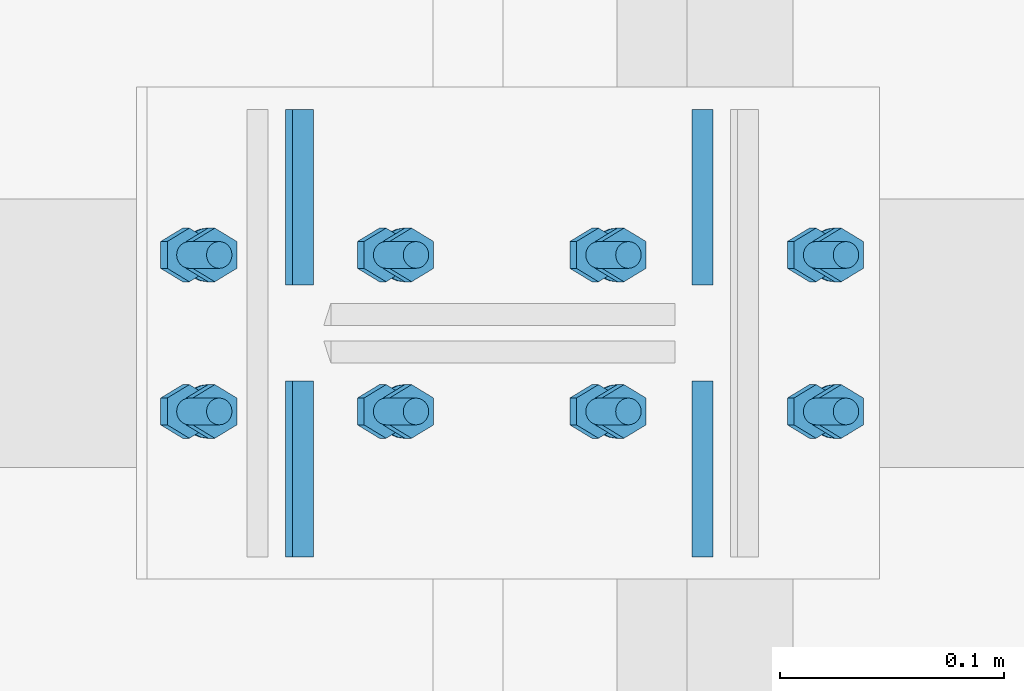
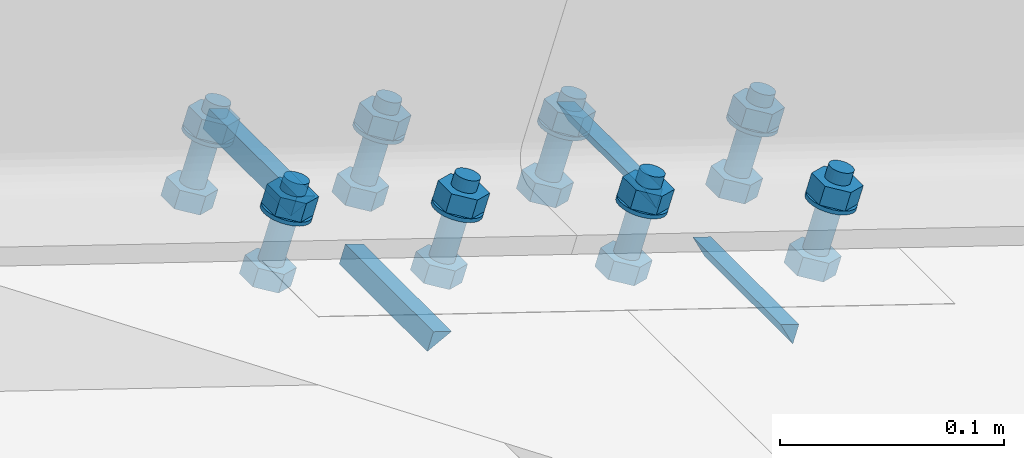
# One storey, part 44 of 53: 32 mechanical fasteners, 8 fasteners.
"""IFC4 building model written with IfcOpenShell, lengths in metres."""

from ifc_helpers import new_model, si_unit, frame, origin_with_axes, place, context, project, spatial, polyline, outline, extrude, type_object, element, save


model = new_model("IFC4")

# Units and contexts
model_context = context("Model", 3, precision=1e-05, world=origin_with_axes())
ifc_project = project(units=[si_unit("LENGTHUNIT", "METRE"), si_unit("AREAUNIT", "SQUARE_METRE"), si_unit("VOLUMEUNIT", "CUBIC_METRE"), si_unit("MASSUNIT", "GRAM", prefix="KILO"), si_unit("TIMEUNIT", "SECOND"), si_unit("PLANEANGLEUNIT", "RADIAN"), si_unit("SOLIDANGLEUNIT", "STERADIAN"), si_unit("THERMODYNAMICTEMPERATUREUNIT", "DEGREE_CELSIUS")], contexts=[model_context])

# Site, building, storey
placement_1 = place(None, origin_with_axes())
site = spatial("IfcSite", under=ifc_project, at=placement_1, Name="Italia", CompositionType="ELEMENT")
building = spatial("IfcBuilding", under=site, at=placement_1, Name="Capannone", CompositionType="ELEMENT")
storey_placement = place(None, frame((0.0, 0.0, 5.550000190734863), z_axis=(0.0, 0.0, 1.0), x_axis=(1.0, 0.0, 0.0)))
storey = spatial("IfcBuildingStorey", under=building, at=storey_placement, Name="Storey 1", CompositionType="ELEMENT", Elevation=5.550000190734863)

# Fasteners
fastener_type_1 = type_object("IfcFastenerType", Name="Collegamenti 0102_0002 0104_0004 0106_0006 0108_0008 0110_0010 0112_0012", PredefinedType="WELD")
placement_2 = place(placement_1, origin_with_axes())
fastener_1_placement = place(placement_2, origin_with_axes())
element("IfcFastener", 1, at=fastener_1_placement, inside=storey, type_object=fastener_type_1, Name="Collegamenti 0102_0002 0104_0004 0106_0006 0108_0008 0110_0010 0112_0012", context=model_context, shape_type="SweptSolid", body=[
    extrude(outline(polyline([(0.0, 0.0), (-0.0125504, -0.00658464), (-0.00937462, 0.00308037), (0.0, 0.0)])), frame((13.9153, 9.10005, 5.56208), z_axis=(0.0, -1.0, 0.0), x_axis=(1.0, 0.0, 0.0)), (0.0, 0.0, 1.0), 0.0785999),
])
fastener_type_2 = type_object("IfcFastenerType", Name="Collegamenti 0102_0002 0104_0004 0106_0006 0108_0008 0110_0010 0112_0012", PredefinedType="WELD")
fastener_2_placement = place(placement_2, origin_with_axes())
element("IfcFastener", 2, at=fastener_2_placement, inside=storey, type_object=fastener_type_2, Name="Collegamenti 0102_0002 0104_0004 0106_0006 0108_0008 0110_0010 0112_0012", context=model_context, shape_type="SweptSolid", body=[
    extrude(outline(polyline([(0.0, 0.0), (-0.00619984, -0.0127454), (-0.00937557, -0.00308037), (0.0, 0.0)])), frame((14.0847, 9.02145, 5.50644), z_axis=(0.0, 1.0, 0.0), x_axis=(-1.0, 0.0, 0.0)), (0.0, 0.0, 1.0), 0.0785999),
])
fastener_type_3 = type_object("IfcFastenerType", Name="Collegamenti 0102_0002 0104_0004 0106_0006 0108_0008 0110_0010 0112_0012", PredefinedType="WELD")
fastener_3_placement = place(placement_2, origin_with_axes())
element("IfcFastener", 3, at=fastener_3_placement, inside=storey, type_object=fastener_type_3, Name="Collegamenti 0102_0002 0104_0004 0106_0006 0108_0008 0110_0010 0112_0012", context=model_context, shape_type="SweptSolid", body=[
    extrude(outline(polyline([(0.0, 0.0), (-0.00619984, -0.0127454), (-0.00937557, -0.00308037), (0.0, 0.0)])), frame((14.0847, 8.89995, 5.50644), z_axis=(0.0, 1.0, 0.0), x_axis=(-1.0, 0.0, 0.0)), (0.0, 0.0, 1.0), 0.0785999),
])
fastener_type_4 = type_object("IfcFastenerType", Name="Collegamenti 0102_0002 0104_0004 0106_0006 0108_0008 0110_0010 0112_0012", PredefinedType="WELD")
fastener_4_placement = place(placement_2, origin_with_axes())
element("IfcFastener", 4, at=fastener_4_placement, inside=storey, type_object=fastener_type_4, Name="Collegamenti 0102_0002 0104_0004 0106_0006 0108_0008 0110_0010 0112_0012", context=model_context, shape_type="SweptSolid", body=[
    extrude(outline(polyline([(0.0, 0.0), (-0.0125504, -0.00658464), (-0.00937462, 0.00308037), (0.0, 0.0)])), frame((13.9153, 8.97855, 5.56208), z_axis=(0.0, -1.0, 0.0), x_axis=(1.0, 0.0, 0.0)), (0.0, 0.0, 1.0), 0.0785999),
])
fastener_type_5 = type_object("IfcFastenerType", Name="Collegamenti 0102_0002 0104_0004 0106_0006 0108_0008 0110_0010 0112_0012", PredefinedType="WELD")
fastener_5_placement = place(placement_2, origin_with_axes())
element("IfcFastener", 5, at=fastener_5_placement, inside=storey, type_object=fastener_type_5, Name="Collegamenti 0102_0002 0104_0004 0106_0006 0108_0008 0110_0010 0112_0012", context=model_context, shape_type="SweptSolid", body=[
    extrude(outline(polyline([(0.0, 0.0), (-0.0125504, -0.00658464), (-0.00937462, 0.00308037), (0.0, 0.0)])), frame((13.9153, 9.10005, 5.56208), z_axis=(0.0, -1.0, 0.0), x_axis=(1.0, 0.0, 0.0)), (0.0, 0.0, 1.0), 0.0785999),
])
fastener_type_6 = type_object("IfcFastenerType", Name="Collegamenti 0102_0002 0104_0004 0106_0006 0108_0008 0110_0010 0112_0012", PredefinedType="WELD")
fastener_6_placement = place(placement_2, origin_with_axes())
element("IfcFastener", 6, at=fastener_6_placement, inside=storey, type_object=fastener_type_6, Name="Collegamenti 0102_0002 0104_0004 0106_0006 0108_0008 0110_0010 0112_0012", context=model_context, shape_type="SweptSolid", body=[
    extrude(outline(polyline([(0.0, 0.0), (-0.00619984, -0.0127454), (-0.00937557, -0.00308037), (0.0, 0.0)])), frame((14.0847, 9.02145, 5.50644), z_axis=(0.0, 1.0, 0.0), x_axis=(-1.0, 0.0, 0.0)), (0.0, 0.0, 1.0), 0.0785999),
])
fastener_type_7 = type_object("IfcFastenerType", Name="Collegamenti 0102_0002 0104_0004 0106_0006 0108_0008 0110_0010 0112_0012", PredefinedType="WELD")
fastener_7_placement = place(placement_2, origin_with_axes())
element("IfcFastener", 7, at=fastener_7_placement, inside=storey, type_object=fastener_type_7, Name="Collegamenti 0102_0002 0104_0004 0106_0006 0108_0008 0110_0010 0112_0012", context=model_context, shape_type="SweptSolid", body=[
    extrude(outline(polyline([(0.0, 0.0), (-0.00619984, -0.0127454), (-0.00937557, -0.00308037), (0.0, 0.0)])), frame((14.0847, 8.89995, 5.50644), z_axis=(0.0, 1.0, 0.0), x_axis=(-1.0, 0.0, 0.0)), (0.0, 0.0, 1.0), 0.0785999),
])
fastener_type_8 = type_object("IfcFastenerType", Name="Collegamenti 0102_0002 0104_0004 0106_0006 0108_0008 0110_0010 0112_0012", PredefinedType="WELD")
fastener_8_placement = place(placement_2, origin_with_axes())
element("IfcFastener", 8, at=fastener_8_placement, inside=storey, type_object=fastener_type_8, Name="Collegamenti 0102_0002 0104_0004 0106_0006 0108_0008 0110_0010 0112_0012", context=model_context, shape_type="SweptSolid", body=[
    extrude(outline(polyline([(0.0, 0.0), (-0.0125504, -0.00658464), (-0.00937462, 0.00308037), (0.0, 0.0)])), frame((13.9153, 8.97855, 5.56208), z_axis=(0.0, -1.0, 0.0), x_axis=(1.0, 0.0, 0.0)), (0.0, 0.0, 1.0), 0.0785999),
])

# Mechanical fasteners
mechanical_fastener_type_1 = type_object("IfcMechanicalFastenerType", Name="Collegamenti 0102_0002 0104_0004 0106_0006 0108_0008 0110_0010 0112_0012", PredefinedType="BOLT")
mechanical_fastener_1_placement = place(placement_2, origin_with_axes())
element("IfcMechanicalFastener", 9, at=mechanical_fastener_1_placement, inside=storey, type_object=mechanical_fastener_type_1, Name="Collegamenti 0102_0002 0104_0004 0106_0006 0108_0008 0110_0010 0112_0012", NominalDiameter=0.0120001, context=model_context, shape_type="SweptSolid", body=[
    extrude(outline(polyline([(0.0, 0.0), (-0.0120001, 0.0), (-0.0179996, 0.0103931), (-0.0120001, 0.0207853), (0.0, 0.0207853), (0.00600052, 0.0103931), (0.0, 0.0)])), frame((13.8697, 9.029, 5.57702), z_axis=(-0.312231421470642, 0.0, -0.950006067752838), x_axis=(0.0, -1.0, 0.0)), (0.0, 0.0, 1.0), 0.00959993),
])
mechanical_fastener_type_2 = type_object("IfcMechanicalFastenerType", Name="Collegamenti 0102_0002 0104_0004 0106_0006 0108_0008 0110_0010 0112_0012", PredefinedType="BOLT")
mechanical_fastener_2_placement = place(placement_2, origin_with_axes())
element("IfcMechanicalFastener", 10, at=mechanical_fastener_2_placement, inside=storey, type_object=mechanical_fastener_type_2, Name="Collegamenti 0102_0002 0104_0004 0106_0006 0108_0008 0110_0010 0112_0012", NominalDiameter=0.012, context=model_context, shape_type="SweptSolid", body=[
    extrude(outline(polyline([(0.0, 0.0), (-0.000204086, -0.00155354), (-0.000802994, -0.00300121), (-0.00175667, -0.0042429), (-0.00299931, -0.00519562), (-0.00444698, -0.00579548), (-0.00599957, -0.00599957), (-0.00755215, -0.00579548), (-0.00899982, -0.00519562), (-0.0102425, -0.0042429), (-0.0111961, -0.00300121), (-0.011795, -0.00155354), (-0.0119991, 0.0), (-0.011795, 0.00155258), (-0.0111961, 0.00300026), (-0.0102425, 0.00424194), (-0.00899982, 0.00519562), (-0.00755215, 0.00579548), (-0.00599957, 0.00599957), (-0.00444698, 0.00579548), (-0.00299931, 0.00519562), (-0.00175667, 0.00424194), (-0.000802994, 0.00300026), (-0.000204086, 0.00155258), (0.0, 0.0)])), frame((13.8732, 9.029, 5.62092), z_axis=(-0.312153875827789, 0.0, -0.950031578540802), x_axis=(0.0, -1.0, 0.0)), (0.0, 0.0, 1.0), 0.0427995),
])
mechanical_fastener_type_3 = type_object("IfcMechanicalFastenerType", Name="Collegamenti 0102_0002 0104_0004 0106_0006 0108_0008 0110_0010 0112_0012", PredefinedType="BOLT")
mechanical_fastener_3_placement = place(placement_2, origin_with_axes())
element("IfcMechanicalFastener", 11, at=mechanical_fastener_3_placement, inside=storey, type_object=mechanical_fastener_type_3, Name="Collegamenti 0102_0002 0104_0004 0106_0006 0108_0008 0110_0010 0112_0012", NominalDiameter=0.0119993, context=model_context, shape_type="SweptSolid", body=[
    extrude(outline(polyline([(0.0, 0.0), (-0.0120001, 0.0), (-0.0179996, 0.0103922), (-0.0120001, 0.0207844), (0.0, 0.0207844), (0.00600052, 0.0103922), (0.0, 0.0)])), frame((13.8811, 9.029, 5.6116), z_axis=(-0.312141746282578, 0.0, -0.950035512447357), x_axis=(0.0, -1.0, 0.0)), (0.0, 0.0, 1.0), 0.00959963),
])
mechanical_fastener_type_4 = type_object("IfcMechanicalFastenerType", Name="Collegamenti 0102_0002 0104_0004 0106_0006 0108_0008 0110_0010 0112_0012", PredefinedType="BOLT")
mechanical_fastener_4_placement = place(placement_2, origin_with_axes())
element("IfcMechanicalFastener", 12, at=mechanical_fastener_4_placement, inside=storey, type_object=mechanical_fastener_type_4, Name="Collegamenti 0102_0002 0104_0004 0106_0006 0108_0008 0110_0010 0112_0012", NominalDiameter=0.024, context=model_context, shape_type="SweptSolid", body=[
    extrude(outline(polyline([(0.0, 0.0), (-0.000409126, -0.00310612), (-0.00160789, -0.00600052), (-0.00351524, -0.00848484), (-0.00600052, -0.0103931), (-0.00889397, -0.011591), (-0.0120001, -0.0120001), (-0.0151062, -0.011591), (-0.0179996, -0.0103931), (-0.0204849, -0.00848484), (-0.0223923, -0.00600052), (-0.023591, -0.00310612), (-0.0240002, 0.0), (-0.023591, 0.00310516), (-0.0223923, 0.00599957), (-0.0204849, 0.00848484), (-0.0179996, 0.0103922), (-0.0151062, 0.01159), (-0.0120001, 0.0119991), (-0.00889397, 0.01159), (-0.00600052, 0.0103922), (-0.00351524, 0.00848484), (-0.00160789, 0.00599957), (-0.000409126, 0.00310516), (0.0, 0.0)])), frame((13.8682, 9.023, 5.60572), z_axis=(-0.312362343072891, 0.0, -0.94996303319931), x_axis=(0.0, -1.0, 0.0)), (0.0, 0.0, 1.0), 0.00199978),
])
mechanical_fastener_type_5 = type_object("IfcMechanicalFastenerType", Name="Collegamenti 0102_0002 0104_0004 0106_0006 0108_0008 0110_0010 0112_0012", PredefinedType="BOLT")
mechanical_fastener_5_placement = place(placement_2, origin_with_axes())
element("IfcMechanicalFastener", 13, at=mechanical_fastener_5_placement, inside=storey, type_object=mechanical_fastener_type_5, Name="Collegamenti 0102_0002 0104_0004 0106_0006 0108_0008 0110_0010 0112_0012", NominalDiameter=0.0120001, context=model_context, shape_type="SweptSolid", body=[
    extrude(outline(polyline([(0.0, 0.0), (-0.0120001, 0.0), (-0.0180006, 0.0103931), (-0.0120001, 0.0207853), (0.0, 0.0207853), (0.00599957, 0.0103931), (0.0, 0.0)])), frame((13.8697, 8.959, 5.57702), z_axis=(-0.312231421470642, 0.0, -0.950006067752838), x_axis=(0.0, -1.0, 0.0)), (0.0, 0.0, 1.0), 0.00959993),
])
mechanical_fastener_type_6 = type_object("IfcMechanicalFastenerType", Name="Collegamenti 0102_0002 0104_0004 0106_0006 0108_0008 0110_0010 0112_0012", PredefinedType="BOLT")
mechanical_fastener_6_placement = place(placement_2, origin_with_axes())
element("IfcMechanicalFastener", 14, at=mechanical_fastener_6_placement, inside=storey, type_object=mechanical_fastener_type_6, Name="Collegamenti 0102_0002 0104_0004 0106_0006 0108_0008 0110_0010 0112_0012", NominalDiameter=0.012, context=model_context, shape_type="SweptSolid", body=[
    extrude(outline(polyline([(0.0, 0.0), (-0.000204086, -0.00155354), (-0.000802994, -0.00300121), (-0.00175667, -0.0042429), (-0.00299931, -0.00519562), (-0.00444698, -0.00579548), (-0.00599957, -0.00599957), (-0.00755215, -0.00579548), (-0.00899982, -0.00519562), (-0.0102425, -0.0042429), (-0.0111961, -0.00300121), (-0.011795, -0.00155354), (-0.0119991, 0.0), (-0.011795, 0.00155258), (-0.0111961, 0.00300026), (-0.0102425, 0.00424194), (-0.00899982, 0.00519562), (-0.00755215, 0.00579548), (-0.00599957, 0.00599957), (-0.00444698, 0.00579548), (-0.00299931, 0.00519562), (-0.00175667, 0.00424194), (-0.000802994, 0.00300026), (-0.000204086, 0.00155258), (0.0, 0.0)])), frame((13.8732, 8.959, 5.62092), z_axis=(-0.312153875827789, 0.0, -0.950031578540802), x_axis=(0.0, -1.0, 0.0)), (0.0, 0.0, 1.0), 0.0427995),
])
mechanical_fastener_type_7 = type_object("IfcMechanicalFastenerType", Name="Collegamenti 0102_0002 0104_0004 0106_0006 0108_0008 0110_0010 0112_0012", PredefinedType="BOLT")
mechanical_fastener_7_placement = place(placement_2, origin_with_axes())
element("IfcMechanicalFastener", 15, at=mechanical_fastener_7_placement, inside=storey, type_object=mechanical_fastener_type_7, Name="Collegamenti 0102_0002 0104_0004 0106_0006 0108_0008 0110_0010 0112_0012", NominalDiameter=0.0119993, context=model_context, shape_type="SweptSolid", body=[
    extrude(outline(polyline([(0.0, 0.0), (-0.0120001, 0.0), (-0.0180006, 0.0103922), (-0.0120001, 0.0207844), (0.0, 0.0207844), (0.00599957, 0.0103922), (0.0, 0.0)])), frame((13.8811, 8.959, 5.6116), z_axis=(-0.312141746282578, 0.0, -0.950035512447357), x_axis=(0.0, -1.0, 0.0)), (0.0, 0.0, 1.0), 0.00959963),
])
mechanical_fastener_type_8 = type_object("IfcMechanicalFastenerType", Name="Collegamenti 0102_0002 0104_0004 0106_0006 0108_0008 0110_0010 0112_0012", PredefinedType="BOLT")
mechanical_fastener_8_placement = place(placement_2, origin_with_axes())
element("IfcMechanicalFastener", 16, at=mechanical_fastener_8_placement, inside=storey, type_object=mechanical_fastener_type_8, Name="Collegamenti 0102_0002 0104_0004 0106_0006 0108_0008 0110_0010 0112_0012", NominalDiameter=0.024, context=model_context, shape_type="SweptSolid", body=[
    extrude(outline(polyline([(0.0, 0.0), (-0.000409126, -0.00310612), (-0.00160789, -0.00600052), (-0.00351524, -0.00848484), (-0.00600052, -0.0103931), (-0.00889397, -0.011591), (-0.0120001, -0.0120001), (-0.0151062, -0.011591), (-0.0179996, -0.0103931), (-0.0204849, -0.00848484), (-0.0223923, -0.00600052), (-0.023591, -0.00310612), (-0.0240002, 0.0), (-0.023591, 0.00310516), (-0.0223923, 0.00599957), (-0.0204849, 0.00848484), (-0.0179996, 0.0103922), (-0.0151062, 0.01159), (-0.0120001, 0.0119991), (-0.00889397, 0.01159), (-0.00600052, 0.0103922), (-0.00351524, 0.00848484), (-0.00160789, 0.00599957), (-0.000409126, 0.00310516), (0.0, 0.0)])), frame((13.8682, 8.953, 5.60572), z_axis=(-0.312362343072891, 0.0, -0.94996303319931), x_axis=(0.0, -1.0, 0.0)), (0.0, 0.0, 1.0), 0.00199978),
])
mechanical_fastener_type_9 = type_object("IfcMechanicalFastenerType", Name="Collegamenti 0102_0002 0104_0004 0106_0006 0108_0008 0110_0010 0112_0012", PredefinedType="BOLT")
mechanical_fastener_9_placement = place(placement_2, origin_with_axes())
element("IfcMechanicalFastener", 17, at=mechanical_fastener_9_placement, inside=storey, type_object=mechanical_fastener_type_9, Name="Collegamenti 0102_0002 0104_0004 0106_0006 0108_0008 0110_0010 0112_0012", NominalDiameter=0.0119993, context=model_context, shape_type="SweptSolid", body=[
    extrude(outline(polyline([(0.0, 0.0), (-0.0120001, 0.0), (-0.0179996, 0.0103931), (-0.0120001, 0.0207844), (0.0, 0.0207844), (0.00600052, 0.0103931), (0.0, 0.0)])), frame((14.0527, 9.029, 5.5169), z_axis=(-0.312127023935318, 0.0, -0.950040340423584), x_axis=(0.0, -1.0, 0.0)), (0.0, 0.0, 1.0), 0.00960008),
])
mechanical_fastener_type_10 = type_object("IfcMechanicalFastenerType", Name="Collegamenti 0102_0002 0104_0004 0106_0006 0108_0008 0110_0010 0112_0012", PredefinedType="BOLT")
mechanical_fastener_10_placement = place(placement_2, origin_with_axes())
element("IfcMechanicalFastener", 18, at=mechanical_fastener_10_placement, inside=storey, type_object=mechanical_fastener_type_10, Name="Collegamenti 0102_0002 0104_0004 0106_0006 0108_0008 0110_0010 0112_0012", NominalDiameter=0.012, context=model_context, shape_type="SweptSolid", body=[
    extrude(outline(polyline([(0.0, 0.0), (-0.000204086, -0.00155258), (-0.000802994, -0.00300026), (-0.00175667, -0.00424194), (-0.00299931, -0.00519562), (-0.00444698, -0.00579453), (-0.00599957, -0.00599957), (-0.00755215, -0.00579453), (-0.00899982, -0.00519562), (-0.0102425, -0.00424194), (-0.0111961, -0.00300026), (-0.011795, -0.00155258), (-0.0119991, 0.0), (-0.011795, 0.00155354), (-0.0111961, 0.00300026), (-0.0102425, 0.00424194), (-0.00899982, 0.00519657), (-0.00755215, 0.00579548), (-0.00599957, 0.00600052), (-0.00444698, 0.00579548), (-0.00299931, 0.00519657), (-0.00175667, 0.00424194), (-0.000802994, 0.00300026), (-0.000204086, 0.00155354), (0.0, 0.0)])), frame((14.0562, 9.029, 5.5608), z_axis=(-0.312150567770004, 0.0, -0.950032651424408), x_axis=(0.0, -1.0, 0.0)), (0.0, 0.0, 1.0), 0.0427999),
])
mechanical_fastener_type_11 = type_object("IfcMechanicalFastenerType", Name="Collegamenti 0102_0002 0104_0004 0106_0006 0108_0008 0110_0010 0112_0012", PredefinedType="BOLT")
mechanical_fastener_11_placement = place(placement_2, origin_with_axes())
element("IfcMechanicalFastener", 19, at=mechanical_fastener_11_placement, inside=storey, type_object=mechanical_fastener_type_11, Name="Collegamenti 0102_0002 0104_0004 0106_0006 0108_0008 0110_0010 0112_0012", NominalDiameter=0.0119993, context=model_context, shape_type="SweptSolid", body=[
    extrude(outline(polyline([(0.0, 0.0), (-0.0120001, 0.0), (-0.0179996, 0.0103912), (-0.0120001, 0.0207834), (0.0, 0.0207834), (0.00600052, 0.0103912), (0.0, 0.0)])), frame((14.0641, 9.029, 5.55148), z_axis=(-0.312127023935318, 0.0, -0.950040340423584), x_axis=(0.0, -1.0, 0.0)), (0.0, 0.0, 1.0), 0.00960008),
])
mechanical_fastener_type_12 = type_object("IfcMechanicalFastenerType", Name="Collegamenti 0102_0002 0104_0004 0106_0006 0108_0008 0110_0010 0112_0012", PredefinedType="BOLT")
mechanical_fastener_12_placement = place(placement_2, origin_with_axes())
element("IfcMechanicalFastener", 20, at=mechanical_fastener_12_placement, inside=storey, type_object=mechanical_fastener_type_12, Name="Collegamenti 0102_0002 0104_0004 0106_0006 0108_0008 0110_0010 0112_0012", NominalDiameter=0.024, context=model_context, shape_type="SweptSolid", body=[
    extrude(outline(polyline([(0.0, 0.0), (-0.000409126, -0.00310516), (-0.00160789, -0.00599957), (-0.00351524, -0.00848579), (-0.00600052, -0.0103912), (-0.00889397, -0.011591), (-0.0120001, -0.0119991), (-0.0151062, -0.011591), (-0.0179996, -0.0103912), (-0.0204849, -0.00848579), (-0.0223923, -0.00599957), (-0.023591, -0.00310516), (-0.0240002, 0.0), (-0.023591, 0.00310612), (-0.0223923, 0.00600052), (-0.0204849, 0.00848675), (-0.0179996, 0.0103922), (-0.0151062, 0.011591), (-0.0120001, 0.0120001), (-0.00889397, 0.011591), (-0.00600052, 0.0103922), (-0.00351524, 0.00848675), (-0.00160789, 0.00600052), (-0.000409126, 0.00310612), (0.0, 0.0)])), frame((14.0512, 9.023, 5.5456), z_axis=(-0.311931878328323, 0.0, -0.950104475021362), x_axis=(0.0, -1.0, 0.0)), (0.0, 0.0, 1.0), 0.00199948),
])
mechanical_fastener_type_13 = type_object("IfcMechanicalFastenerType", Name="Collegamenti 0102_0002 0104_0004 0106_0006 0108_0008 0110_0010 0112_0012", PredefinedType="BOLT")
mechanical_fastener_13_placement = place(placement_2, origin_with_axes())
element("IfcMechanicalFastener", 21, at=mechanical_fastener_13_placement, inside=storey, type_object=mechanical_fastener_type_13, Name="Collegamenti 0102_0002 0104_0004 0106_0006 0108_0008 0110_0010 0112_0012", NominalDiameter=0.0119993, context=model_context, shape_type="SweptSolid", body=[
    extrude(outline(polyline([(0.0, 0.0), (-0.0120001, 0.0), (-0.0180006, 0.0103931), (-0.0120001, 0.0207844), (0.0, 0.0207844), (0.00599957, 0.0103931), (0.0, 0.0)])), frame((14.0527, 8.959, 5.5169), z_axis=(-0.312127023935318, 0.0, -0.950040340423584), x_axis=(0.0, -1.0, 0.0)), (0.0, 0.0, 1.0), 0.00960008),
])
mechanical_fastener_type_14 = type_object("IfcMechanicalFastenerType", Name="Collegamenti 0102_0002 0104_0004 0106_0006 0108_0008 0110_0010 0112_0012", PredefinedType="BOLT")
mechanical_fastener_14_placement = place(placement_2, origin_with_axes())
element("IfcMechanicalFastener", 22, at=mechanical_fastener_14_placement, inside=storey, type_object=mechanical_fastener_type_14, Name="Collegamenti 0102_0002 0104_0004 0106_0006 0108_0008 0110_0010 0112_0012", NominalDiameter=0.012, context=model_context, shape_type="SweptSolid", body=[
    extrude(outline(polyline([(0.0, 0.0), (-0.000204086, -0.00155258), (-0.000802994, -0.00300026), (-0.00175667, -0.00424194), (-0.00299931, -0.00519562), (-0.00444698, -0.00579453), (-0.00599957, -0.00599957), (-0.00755215, -0.00579453), (-0.00899982, -0.00519562), (-0.0102425, -0.00424194), (-0.0111961, -0.00300026), (-0.011795, -0.00155258), (-0.0119991, 0.0), (-0.011795, 0.00155354), (-0.0111961, 0.00300026), (-0.0102425, 0.00424194), (-0.00899982, 0.00519657), (-0.00755215, 0.00579548), (-0.00599957, 0.00600052), (-0.00444698, 0.00579548), (-0.00299931, 0.00519657), (-0.00175667, 0.00424194), (-0.000802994, 0.00300026), (-0.000204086, 0.00155354), (0.0, 0.0)])), frame((14.0562, 8.959, 5.5608), z_axis=(-0.312150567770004, 0.0, -0.950032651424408), x_axis=(0.0, -1.0, 0.0)), (0.0, 0.0, 1.0), 0.0427999),
])
mechanical_fastener_type_15 = type_object("IfcMechanicalFastenerType", Name="Collegamenti 0102_0002 0104_0004 0106_0006 0108_0008 0110_0010 0112_0012", PredefinedType="BOLT")
mechanical_fastener_15_placement = place(placement_2, origin_with_axes())
element("IfcMechanicalFastener", 23, at=mechanical_fastener_15_placement, inside=storey, type_object=mechanical_fastener_type_15, Name="Collegamenti 0102_0002 0104_0004 0106_0006 0108_0008 0110_0010 0112_0012", NominalDiameter=0.0119993, context=model_context, shape_type="SweptSolid", body=[
    extrude(outline(polyline([(0.0, 0.0), (-0.0120001, 0.0), (-0.0180006, 0.0103912), (-0.0120001, 0.0207834), (0.0, 0.0207834), (0.00599957, 0.0103912), (0.0, 0.0)])), frame((14.0641, 8.959, 5.55148), z_axis=(-0.312127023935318, 0.0, -0.950040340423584), x_axis=(0.0, -1.0, 0.0)), (0.0, 0.0, 1.0), 0.00960008),
])
mechanical_fastener_type_16 = type_object("IfcMechanicalFastenerType", Name="Collegamenti 0102_0002 0104_0004 0106_0006 0108_0008 0110_0010 0112_0012", PredefinedType="BOLT")
mechanical_fastener_16_placement = place(placement_2, origin_with_axes())
element("IfcMechanicalFastener", 24, at=mechanical_fastener_16_placement, inside=storey, type_object=mechanical_fastener_type_16, Name="Collegamenti 0102_0002 0104_0004 0106_0006 0108_0008 0110_0010 0112_0012", NominalDiameter=0.024, context=model_context, shape_type="SweptSolid", body=[
    extrude(outline(polyline([(0.0, 0.0), (-0.000409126, -0.00310516), (-0.00160789, -0.00599957), (-0.00351524, -0.00848579), (-0.00600052, -0.0103912), (-0.00889397, -0.011591), (-0.0120001, -0.0119991), (-0.0151062, -0.011591), (-0.0179996, -0.0103912), (-0.0204849, -0.00848579), (-0.0223923, -0.00599957), (-0.023591, -0.00310516), (-0.0240002, 0.0), (-0.023591, 0.00310612), (-0.0223923, 0.00600052), (-0.0204849, 0.00848675), (-0.0179996, 0.0103922), (-0.0151062, 0.011591), (-0.0120001, 0.0120001), (-0.00889397, 0.011591), (-0.00600052, 0.0103922), (-0.00351524, 0.00848675), (-0.00160789, 0.00600052), (-0.000409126, 0.00310612), (0.0, 0.0)])), frame((14.0512, 8.953, 5.5456), z_axis=(-0.311931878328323, 0.0, -0.950104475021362), x_axis=(0.0, -1.0, 0.0)), (0.0, 0.0, 1.0), 0.00199948),
])
mechanical_fastener_type_17 = type_object("IfcMechanicalFastenerType", Name="Collegamenti 0102_0002 0104_0004 0106_0006 0108_0008 0110_0010 0112_0012", PredefinedType="BOLT")
mechanical_fastener_17_placement = place(placement_2, origin_with_axes())
element("IfcMechanicalFastener", 25, at=mechanical_fastener_17_placement, inside=storey, type_object=mechanical_fastener_type_17, Name="Collegamenti 0102_0002 0104_0004 0106_0006 0108_0008 0110_0010 0112_0012", NominalDiameter=0.0119994, context=model_context, shape_type="SweptSolid", body=[
    extrude(outline(polyline([(0.0, 0.0), (-0.0120001, 0.0), (-0.0179996, 0.0103931), (-0.0120001, 0.0207853), (0.0, 0.0207853), (0.00600052, 0.0103931), (0.0, 0.0)])), frame((13.9577, 9.029, 5.54811), z_axis=(-0.312141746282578, 0.0, -0.950035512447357), x_axis=(0.0, -1.0, 0.0)), (0.0, 0.0, 1.0), 0.00959963),
])
mechanical_fastener_type_18 = type_object("IfcMechanicalFastenerType", Name="Collegamenti 0102_0002 0104_0004 0106_0006 0108_0008 0110_0010 0112_0012", PredefinedType="BOLT")
mechanical_fastener_18_placement = place(placement_2, origin_with_axes())
element("IfcMechanicalFastener", 26, at=mechanical_fastener_18_placement, inside=storey, type_object=mechanical_fastener_type_18, Name="Collegamenti 0102_0002 0104_0004 0106_0006 0108_0008 0110_0010 0112_0012", NominalDiameter=0.012, context=model_context, shape_type="SweptSolid", body=[
    extrude(outline(polyline([(0.0, 0.0), (-0.000204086, -0.00155354), (-0.000802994, -0.00300121), (-0.00175667, -0.00424194), (-0.00299931, -0.00519562), (-0.00444698, -0.00579453), (-0.00599957, -0.00599957), (-0.00755215, -0.00579453), (-0.00899982, -0.00519562), (-0.0102425, -0.00424194), (-0.0111961, -0.00300121), (-0.011795, -0.00155354), (-0.0119991, 0.0), (-0.011795, 0.00155354), (-0.0111961, 0.00300026), (-0.0102425, 0.00424194), (-0.00899982, 0.00519657), (-0.00755215, 0.00579548), (-0.00599957, 0.00599957), (-0.00444698, 0.00579548), (-0.00299931, 0.00519657), (-0.00175667, 0.00424194), (-0.000802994, 0.00300026), (-0.000204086, 0.00155354), (0.0, 0.0)])), frame((13.9612, 9.029, 5.59202), z_axis=(-0.312147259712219, 0.0, -0.950033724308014), x_axis=(0.0, -1.0, 0.0)), (0.0, 0.0, 1.0), 0.0428004),
])
mechanical_fastener_type_19 = type_object("IfcMechanicalFastenerType", Name="Collegamenti 0102_0002 0104_0004 0106_0006 0108_0008 0110_0010 0112_0012", PredefinedType="BOLT")
mechanical_fastener_19_placement = place(placement_2, origin_with_axes())
element("IfcMechanicalFastener", 27, at=mechanical_fastener_19_placement, inside=storey, type_object=mechanical_fastener_type_19, Name="Collegamenti 0102_0002 0104_0004 0106_0006 0108_0008 0110_0010 0112_0012", NominalDiameter=0.0119993, context=model_context, shape_type="SweptSolid", body=[
    extrude(outline(polyline([(0.0, 0.0), (-0.0120001, 0.0), (-0.0179996, 0.0103922), (-0.0120001, 0.0207844), (0.0, 0.0207844), (0.00600052, 0.0103922), (0.0, 0.0)])), frame((13.9691, 9.029, 5.5827), z_axis=(-0.312127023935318, 0.0, -0.950040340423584), x_axis=(0.0, -1.0, 0.0)), (0.0, 0.0, 1.0), 0.00960008),
])
mechanical_fastener_type_20 = type_object("IfcMechanicalFastenerType", Name="Collegamenti 0102_0002 0104_0004 0106_0006 0108_0008 0110_0010 0112_0012", PredefinedType="BOLT")
mechanical_fastener_20_placement = place(placement_2, origin_with_axes())
element("IfcMechanicalFastener", 28, at=mechanical_fastener_20_placement, inside=storey, type_object=mechanical_fastener_type_20, Name="Collegamenti 0102_0002 0104_0004 0106_0006 0108_0008 0110_0010 0112_0012", NominalDiameter=0.024, context=model_context, shape_type="SweptSolid", body=[
    extrude(outline(polyline([(0.0, 0.0), (-0.000409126, -0.00310516), (-0.00160789, -0.00600052), (-0.00351524, -0.00848484), (-0.00600052, -0.0103931), (-0.00889397, -0.011591), (-0.0120001, -0.0120001), (-0.0151062, -0.011591), (-0.0179996, -0.0103931), (-0.0204849, -0.00848484), (-0.0223923, -0.00600052), (-0.023591, -0.00310516), (-0.0240002, 0.0), (-0.023591, 0.00310516), (-0.0223923, 0.00599957), (-0.0204849, 0.00848579), (-0.0179996, 0.0103922), (-0.0151062, 0.011591), (-0.0120001, 0.0120001), (-0.00889397, 0.011591), (-0.00600052, 0.0103922), (-0.00351524, 0.00848579), (-0.00160789, 0.00599957), (-0.000409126, 0.00310516), (0.0, 0.0)])), frame((13.9562, 9.023, 5.57682), z_axis=(-0.311790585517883, 0.0, -0.950150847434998), x_axis=(0.0, -1.0, 0.0)), (0.0, 0.0, 1.0), 0.00200039),
])
mechanical_fastener_type_21 = type_object("IfcMechanicalFastenerType", Name="Collegamenti 0102_0002 0104_0004 0106_0006 0108_0008 0110_0010 0112_0012", PredefinedType="BOLT")
mechanical_fastener_21_placement = place(placement_2, origin_with_axes())
element("IfcMechanicalFastener", 29, at=mechanical_fastener_21_placement, inside=storey, type_object=mechanical_fastener_type_21, Name="Collegamenti 0102_0002 0104_0004 0106_0006 0108_0008 0110_0010 0112_0012", NominalDiameter=0.0119994, context=model_context, shape_type="SweptSolid", body=[
    extrude(outline(polyline([(0.0, 0.0), (-0.0120001, 0.0), (-0.0180006, 0.0103931), (-0.0120001, 0.0207853), (0.0, 0.0207853), (0.00599957, 0.0103931), (0.0, 0.0)])), frame((13.9577, 8.959, 5.54811), z_axis=(-0.312141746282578, 0.0, -0.950035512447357), x_axis=(0.0, -1.0, 0.0)), (0.0, 0.0, 1.0), 0.00959963),
])
mechanical_fastener_type_22 = type_object("IfcMechanicalFastenerType", Name="Collegamenti 0102_0002 0104_0004 0106_0006 0108_0008 0110_0010 0112_0012", PredefinedType="BOLT")
mechanical_fastener_22_placement = place(placement_2, origin_with_axes())
element("IfcMechanicalFastener", 30, at=mechanical_fastener_22_placement, inside=storey, type_object=mechanical_fastener_type_22, Name="Collegamenti 0102_0002 0104_0004 0106_0006 0108_0008 0110_0010 0112_0012", NominalDiameter=0.012, context=model_context, shape_type="SweptSolid", body=[
    extrude(outline(polyline([(0.0, 0.0), (-0.000204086, -0.00155354), (-0.000802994, -0.00300121), (-0.00175667, -0.00424194), (-0.00299931, -0.00519562), (-0.00444698, -0.00579453), (-0.00599957, -0.00599957), (-0.00755215, -0.00579453), (-0.00899982, -0.00519562), (-0.0102425, -0.00424194), (-0.0111961, -0.00300121), (-0.011795, -0.00155354), (-0.0119991, 0.0), (-0.011795, 0.00155354), (-0.0111961, 0.00300026), (-0.0102425, 0.00424194), (-0.00899982, 0.00519657), (-0.00755215, 0.00579548), (-0.00599957, 0.00599957), (-0.00444698, 0.00579548), (-0.00299931, 0.00519657), (-0.00175667, 0.00424194), (-0.000802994, 0.00300026), (-0.000204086, 0.00155354), (0.0, 0.0)])), frame((13.9612, 8.959, 5.59202), z_axis=(-0.312147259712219, 0.0, -0.950033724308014), x_axis=(0.0, -1.0, 0.0)), (0.0, 0.0, 1.0), 0.0428004),
])
mechanical_fastener_type_23 = type_object("IfcMechanicalFastenerType", Name="Collegamenti 0102_0002 0104_0004 0106_0006 0108_0008 0110_0010 0112_0012", PredefinedType="BOLT")
mechanical_fastener_23_placement = place(placement_2, origin_with_axes())
element("IfcMechanicalFastener", 31, at=mechanical_fastener_23_placement, inside=storey, type_object=mechanical_fastener_type_23, Name="Collegamenti 0102_0002 0104_0004 0106_0006 0108_0008 0110_0010 0112_0012", NominalDiameter=0.0119993, context=model_context, shape_type="SweptSolid", body=[
    extrude(outline(polyline([(0.0, 0.0), (-0.0120001, 0.0), (-0.0180006, 0.0103922), (-0.0120001, 0.0207844), (0.0, 0.0207844), (0.00599957, 0.0103922), (0.0, 0.0)])), frame((13.9691, 8.959, 5.5827), z_axis=(-0.312127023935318, 0.0, -0.950040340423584), x_axis=(0.0, -1.0, 0.0)), (0.0, 0.0, 1.0), 0.00960008),
])
mechanical_fastener_type_24 = type_object("IfcMechanicalFastenerType", Name="Collegamenti 0102_0002 0104_0004 0106_0006 0108_0008 0110_0010 0112_0012", PredefinedType="BOLT")
mechanical_fastener_24_placement = place(placement_2, origin_with_axes())
element("IfcMechanicalFastener", 32, at=mechanical_fastener_24_placement, inside=storey, type_object=mechanical_fastener_type_24, Name="Collegamenti 0102_0002 0104_0004 0106_0006 0108_0008 0110_0010 0112_0012", NominalDiameter=0.024, context=model_context, shape_type="SweptSolid", body=[
    extrude(outline(polyline([(0.0, 0.0), (-0.000409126, -0.00310516), (-0.00160789, -0.00600052), (-0.00351524, -0.00848484), (-0.00600052, -0.0103931), (-0.00889397, -0.011591), (-0.0120001, -0.0120001), (-0.0151062, -0.011591), (-0.0179996, -0.0103931), (-0.0204849, -0.00848484), (-0.0223923, -0.00600052), (-0.023591, -0.00310516), (-0.0240002, 0.0), (-0.023591, 0.00310516), (-0.0223923, 0.00599957), (-0.0204849, 0.00848579), (-0.0179996, 0.0103922), (-0.0151062, 0.011591), (-0.0120001, 0.0120001), (-0.00889397, 0.011591), (-0.00600052, 0.0103922), (-0.00351524, 0.00848579), (-0.00160789, 0.00599957), (-0.000409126, 0.00310516), (0.0, 0.0)])), frame((13.9562, 8.953, 5.57682), z_axis=(-0.311790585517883, 0.0, -0.950150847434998), x_axis=(0.0, -1.0, 0.0)), (0.0, 0.0, 1.0), 0.00200039),
])
mechanical_fastener_type_25 = type_object("IfcMechanicalFastenerType", Name="Collegamenti 0102_0002 0104_0004 0106_0006 0108_0008 0110_0010 0112_0012", PredefinedType="BOLT")
mechanical_fastener_25_placement = place(placement_2, origin_with_axes())
element("IfcMechanicalFastener", 33, at=mechanical_fastener_25_placement, inside=storey, type_object=mechanical_fastener_type_25, Name="Collegamenti 0102_0002 0104_0004 0106_0006 0108_0008 0110_0010 0112_0012", NominalDiameter=0.0120001, context=model_context, shape_type="SweptSolid", body=[
    extrude(outline(polyline([(0.0, 0.0), (-0.0120001, 0.0), (-0.0179996, 0.0103922), (-0.0120001, 0.0207853), (0.0, 0.0207853), (0.00600052, 0.0103922), (0.0, 0.0)])), frame((14.15, 9.029, 5.48493), z_axis=(-0.312216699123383, 0.0, -0.950010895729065), x_axis=(0.0, -1.0, 0.0)), (0.0, 0.0, 1.0), 0.00960038),
])
mechanical_fastener_type_26 = type_object("IfcMechanicalFastenerType", Name="Collegamenti 0102_0002 0104_0004 0106_0006 0108_0008 0110_0010 0112_0012", PredefinedType="BOLT")
mechanical_fastener_26_placement = place(placement_2, origin_with_axes())
element("IfcMechanicalFastener", 34, at=mechanical_fastener_26_placement, inside=storey, type_object=mechanical_fastener_type_26, Name="Collegamenti 0102_0002 0104_0004 0106_0006 0108_0008 0110_0010 0112_0012", NominalDiameter=0.012, context=model_context, shape_type="SweptSolid", body=[
    extrude(outline(polyline([(0.0, 0.0), (-0.000204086, -0.00155163), (-0.000802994, -0.00299931), (-0.00175667, -0.00424099), (-0.00299931, -0.00519562), (-0.00444698, -0.00579453), (-0.00599957, -0.00599957), (-0.00755215, -0.00579453), (-0.00899982, -0.00519562), (-0.0102425, -0.00424099), (-0.0111961, -0.00299931), (-0.011795, -0.00155163), (-0.0119991, 0.0), (-0.011795, 0.00155354), (-0.0111961, 0.00300121), (-0.0102425, 0.0042429), (-0.00899982, 0.00519657), (-0.00755215, 0.00579548), (-0.00599957, 0.00600052), (-0.00444698, 0.00579548), (-0.00299931, 0.00519657), (-0.00175667, 0.0042429), (-0.000802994, 0.00300121), (-0.000204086, 0.00155354), (0.0, 0.0)])), frame((14.1535, 9.029, 5.52884), z_axis=(-0.312150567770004, 0.0, -0.950032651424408), x_axis=(0.0, -1.0, 0.0)), (0.0, 0.0, 1.0), 0.0427999),
])
mechanical_fastener_type_27 = type_object("IfcMechanicalFastenerType", Name="Collegamenti 0102_0002 0104_0004 0106_0006 0108_0008 0110_0010 0112_0012", PredefinedType="BOLT")
mechanical_fastener_27_placement = place(placement_2, origin_with_axes())
element("IfcMechanicalFastener", 35, at=mechanical_fastener_27_placement, inside=storey, type_object=mechanical_fastener_type_27, Name="Collegamenti 0102_0002 0104_0004 0106_0006 0108_0008 0110_0010 0112_0012", NominalDiameter=0.0119993, context=model_context, shape_type="SweptSolid", body=[
    extrude(outline(polyline([(0.0, 0.0), (-0.0120001, 0.0), (-0.0179996, 0.0103931), (-0.0120001, 0.0207853), (0.0, 0.0207853), (0.00600052, 0.0103931), (0.0, 0.0)])), frame((14.1613, 9.029, 5.51952), z_axis=(-0.312127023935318, 0.0, -0.950040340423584), x_axis=(0.0, -1.0, 0.0)), (0.0, 0.0, 1.0), 0.00960008),
])
mechanical_fastener_type_28 = type_object("IfcMechanicalFastenerType", Name="Collegamenti 0102_0002 0104_0004 0106_0006 0108_0008 0110_0010 0112_0012", PredefinedType="BOLT")
mechanical_fastener_28_placement = place(placement_2, origin_with_axes())
element("IfcMechanicalFastener", 36, at=mechanical_fastener_28_placement, inside=storey, type_object=mechanical_fastener_type_28, Name="Collegamenti 0102_0002 0104_0004 0106_0006 0108_0008 0110_0010 0112_0012", NominalDiameter=0.024, context=model_context, shape_type="SweptSolid", body=[
    extrude(outline(polyline([(0.0, 0.0), (-0.000409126, -0.00310612), (-0.00160789, -0.00600052), (-0.00351524, -0.00848484), (-0.00600052, -0.0103922), (-0.00889397, -0.011591), (-0.0120001, -0.0120001), (-0.0151062, -0.011591), (-0.0179996, -0.0103922), (-0.0204849, -0.00848484), (-0.0223923, -0.00600052), (-0.023591, -0.00310612), (-0.0240002, 0.0), (-0.023591, 0.00310612), (-0.0223923, 0.00599957), (-0.0204849, 0.00848579), (-0.0179996, 0.0103922), (-0.0151062, 0.0115919), (-0.0120001, 0.0120001), (-0.00889397, 0.0115919), (-0.00600052, 0.0103922), (-0.00351524, 0.00848579), (-0.00160789, 0.00599957), (-0.000409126, 0.00310612), (0.0, 0.0)])), frame((14.1485, 9.023, 5.51364), z_axis=(-0.311790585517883, 0.0, -0.950150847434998), x_axis=(0.0, -1.0, 0.0)), (0.0, 0.0, 1.0), 0.00200039),
])
mechanical_fastener_type_29 = type_object("IfcMechanicalFastenerType", Name="Collegamenti 0102_0002 0104_0004 0106_0006 0108_0008 0110_0010 0112_0012", PredefinedType="BOLT")
mechanical_fastener_29_placement = place(placement_2, origin_with_axes())
element("IfcMechanicalFastener", 37, at=mechanical_fastener_29_placement, inside=storey, type_object=mechanical_fastener_type_29, Name="Collegamenti 0102_0002 0104_0004 0106_0006 0108_0008 0110_0010 0112_0012", NominalDiameter=0.0120001, context=model_context, shape_type="SweptSolid", body=[
    extrude(outline(polyline([(0.0, 0.0), (-0.0120001, 0.0), (-0.0180006, 0.0103922), (-0.0120001, 0.0207853), (0.0, 0.0207853), (0.00599957, 0.0103922), (0.0, 0.0)])), frame((14.15, 8.959, 5.48493), z_axis=(-0.312216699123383, 0.0, -0.950010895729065), x_axis=(0.0, -1.0, 0.0)), (0.0, 0.0, 1.0), 0.00960038),
])
mechanical_fastener_type_30 = type_object("IfcMechanicalFastenerType", Name="Collegamenti 0102_0002 0104_0004 0106_0006 0108_0008 0110_0010 0112_0012", PredefinedType="BOLT")
mechanical_fastener_30_placement = place(placement_2, origin_with_axes())
element("IfcMechanicalFastener", 38, at=mechanical_fastener_30_placement, inside=storey, type_object=mechanical_fastener_type_30, Name="Collegamenti 0102_0002 0104_0004 0106_0006 0108_0008 0110_0010 0112_0012", NominalDiameter=0.012, context=model_context, shape_type="SweptSolid", body=[
    extrude(outline(polyline([(0.0, 0.0), (-0.000204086, -0.00155163), (-0.000802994, -0.00299931), (-0.00175667, -0.00424099), (-0.00299931, -0.00519562), (-0.00444698, -0.00579453), (-0.00599957, -0.00599957), (-0.00755215, -0.00579453), (-0.00899982, -0.00519562), (-0.0102425, -0.00424099), (-0.0111961, -0.00299931), (-0.011795, -0.00155163), (-0.0119991, 0.0), (-0.011795, 0.00155354), (-0.0111961, 0.00300121), (-0.0102425, 0.0042429), (-0.00899982, 0.00519657), (-0.00755215, 0.00579548), (-0.00599957, 0.00600052), (-0.00444698, 0.00579548), (-0.00299931, 0.00519657), (-0.00175667, 0.0042429), (-0.000802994, 0.00300121), (-0.000204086, 0.00155354), (0.0, 0.0)])), frame((14.1535, 8.959, 5.52884), z_axis=(-0.312150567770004, 0.0, -0.950032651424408), x_axis=(0.0, -1.0, 0.0)), (0.0, 0.0, 1.0), 0.0427999),
])
mechanical_fastener_type_31 = type_object("IfcMechanicalFastenerType", Name="Collegamenti 0102_0002 0104_0004 0106_0006 0108_0008 0110_0010 0112_0012", PredefinedType="BOLT")
mechanical_fastener_31_placement = place(placement_2, origin_with_axes())
element("IfcMechanicalFastener", 39, at=mechanical_fastener_31_placement, inside=storey, type_object=mechanical_fastener_type_31, Name="Collegamenti 0102_0002 0104_0004 0106_0006 0108_0008 0110_0010 0112_0012", NominalDiameter=0.0119993, context=model_context, shape_type="SweptSolid", body=[
    extrude(outline(polyline([(0.0, 0.0), (-0.0120001, 0.0), (-0.0180006, 0.0103931), (-0.0120001, 0.0207853), (0.0, 0.0207853), (0.00599957, 0.0103931), (0.0, 0.0)])), frame((14.1613, 8.959, 5.51952), z_axis=(-0.312127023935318, 0.0, -0.950040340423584), x_axis=(0.0, -1.0, 0.0)), (0.0, 0.0, 1.0), 0.00960008),
])
mechanical_fastener_type_32 = type_object("IfcMechanicalFastenerType", Name="Collegamenti 0102_0002 0104_0004 0106_0006 0108_0008 0110_0010 0112_0012", PredefinedType="BOLT")
mechanical_fastener_32_placement = place(placement_2, origin_with_axes())
element("IfcMechanicalFastener", 40, at=mechanical_fastener_32_placement, inside=storey, type_object=mechanical_fastener_type_32, Name="Collegamenti 0102_0002 0104_0004 0106_0006 0108_0008 0110_0010 0112_0012", NominalDiameter=0.024, context=model_context, shape_type="SweptSolid", body=[
    extrude(outline(polyline([(0.0, 0.0), (-0.000409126, -0.00310612), (-0.00160789, -0.00600052), (-0.00351524, -0.00848484), (-0.00600052, -0.0103922), (-0.00889397, -0.011591), (-0.0120001, -0.0120001), (-0.0151062, -0.011591), (-0.0179996, -0.0103922), (-0.0204849, -0.00848484), (-0.0223923, -0.00600052), (-0.023591, -0.00310612), (-0.0240002, 0.0), (-0.023591, 0.00310612), (-0.0223923, 0.00599957), (-0.0204849, 0.00848579), (-0.0179996, 0.0103922), (-0.0151062, 0.0115919), (-0.0120001, 0.0120001), (-0.00889397, 0.0115919), (-0.00600052, 0.0103922), (-0.00351524, 0.00848579), (-0.00160789, 0.00599957), (-0.000409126, 0.00310612), (0.0, 0.0)])), frame((14.1485, 8.953, 5.51364), z_axis=(-0.311790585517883, 0.0, -0.950150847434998), x_axis=(0.0, -1.0, 0.0)), (0.0, 0.0, 1.0), 0.00200039),
])

save(model, "model.ifc")
